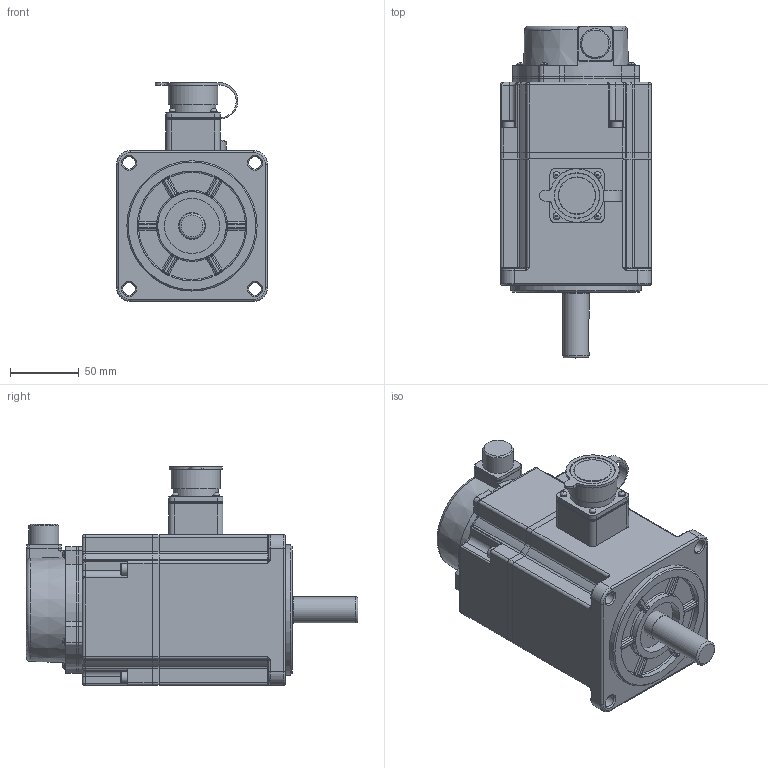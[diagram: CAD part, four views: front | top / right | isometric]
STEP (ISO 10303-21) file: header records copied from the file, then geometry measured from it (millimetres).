
FILE_DESCRIPTION(/* description */ (''),/* implementation_level */ '2;1');
FILE_NAME(/* name */ '标准4N.stp',/* time_stamp */ '2024-04-19T14:21:54+08:00',/* author */ (''),/* organization */ (''),/* preprocessor_version */ 'ST-DEVELOPER v18.1',/* originating_system */ 'SIEMENS PLM Software NX 2000',/* authorisation */ '');
FILE_SCHEMA (('AUTOMOTIVE_DESIGN { 1 0 10303 214 3 1 1 1 }'));
Length unit declared in the file: millimetre
Products named in the file (1): 92504378DBD25y9r
Bounding box: 110 x 242 x 159.5 mm (x, y, z)
Volume: 1807768.1 mm3; surface area: 225345.1 mm2
Topology: 22 solids, 24 shells, 1043 faces, 2467 edges, 1461 vertices
Faces by surface type: cylinder 391, plane 348, torus 94, bspline 92, sphere 60, cone 58
Full cylindrical faces by diameter (mm): 2 x4, 2.5 x8, 3.5 x4, 4.1 x8, 4.2 x3, 4.826 x4, 5 x10, 5.5 x3, 8.5 x4, 9 x4, 19 x1, 19.6 x1, 20 x1, 22 x1, 22.288 x1, 24.616 x1, 27 x2, 28 x1, 30 x1, 33 x3, 35 x1, 36 x1, 40 x2, 84 x1, 95 x1, 100 x1, 101.4 x1, 104 x3
Entity records: 31719 total; most frequent: CARTESIAN_POINT 8586, DIRECTION 5046, ORIENTED_EDGE 4454, EDGE_CURVE 2227, AXIS2_PLACEMENT_3D 2069, VERTEX_POINT 1407, EDGE_LOOP 1274, CIRCLE 1101
